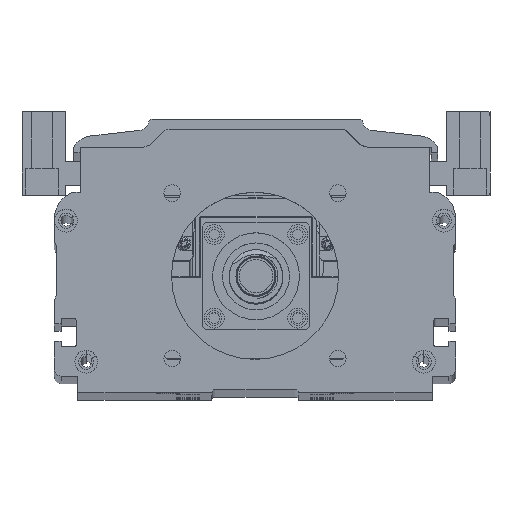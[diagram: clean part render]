
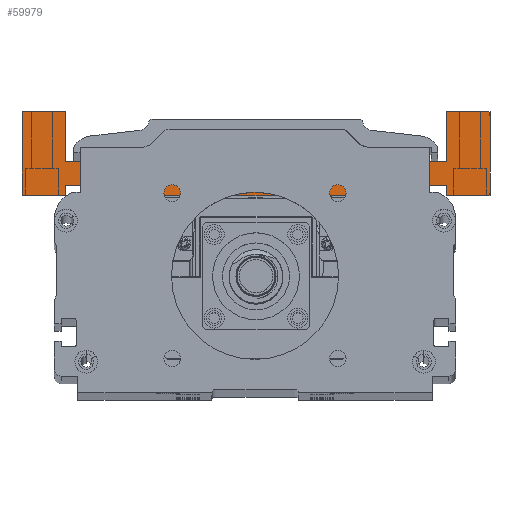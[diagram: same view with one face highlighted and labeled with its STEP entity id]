
A CAD part, top view. The second image highlights one B-rep face of the part: STEP entity #59979.
In plain terms, the highlighted planar face has unit normal (0, 0, 1) as drawn and (0, 0, -1) by its records, which use the part's own axes.
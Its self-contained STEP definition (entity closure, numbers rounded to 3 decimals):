
#3860 = EDGE_CURVE ( 'NONE', #14303, #93980, #13935, .T. ) ;
#4049 = CARTESIAN_POINT ( 'NONE',  ( 127., 0., 0. ) ) ;
#4264 = VECTOR ( 'NONE', #114671, 1000. ) ;
#4629 = EDGE_CURVE ( 'NONE', #39083, #14303, #122139, .T. ) ;
#5108 = VECTOR ( 'NONE', #44307, 1000. ) ;
#5860 = EDGE_CURVE ( 'NONE', #118485, #125857, #63089, .T. ) ;
#6048 = CARTESIAN_POINT ( 'NONE',  ( 140., -25., 0. ) ) ;
#6207 = EDGE_CURVE ( 'NONE', #33908, #99098, #91746, .T. ) ;
#6612 = CARTESIAN_POINT ( 'NONE',  ( 42., -15., 0. ) ) ;
#7567 = VECTOR ( 'NONE', #57195, 1000. ) ;
#7599 = CARTESIAN_POINT ( 'NONE',  ( 13., -15., 0. ) ) ;
#7798 = EDGE_CURVE ( 'NONE', #76989, #122201, #102586, .T. ) ;
#8261 = VECTOR ( 'NONE', #110815, 1000. ) ;
#9100 = VERTEX_POINT ( 'NONE', #15452 ) ;
#9719 = CARTESIAN_POINT ( 'NONE',  ( 19., -22., 0. ) ) ;
#9864 = ORIENTED_EDGE ( 'NONE', *, *, #5860, .F. ) ;
#10648 = ORIENTED_EDGE ( 'NONE', *, *, #3860, .F. ) ;
#11355 = ORIENTED_EDGE ( 'NONE', *, *, #86712, .F. ) ;
#12365 = CARTESIAN_POINT ( 'NONE',  ( 127., -15., 0. ) ) ;
#13204 = LINE ( 'NONE', #4049, #37133 ) ;
#13488 = EDGE_CURVE ( 'NONE', #9100, #81369, #37369, .T. ) ;
#13935 = LINE ( 'NONE', #115567, #17136 ) ;
#14303 = VERTEX_POINT ( 'NONE', #67794 ) ;
#14593 = VECTOR ( 'NONE', #80958, 1000. ) ;
#15452 = CARTESIAN_POINT ( 'NONE',  ( 121., -25., 0. ) ) ;
#16079 = ORIENTED_EDGE ( 'NONE', *, *, #62177, .F. ) ;
#17136 = VECTOR ( 'NONE', #64892, 1000. ) ;
#17893 = CARTESIAN_POINT ( 'NONE',  ( 121., -25., 0. ) ) ;
#19678 = DIRECTION ( 'NONE',  ( 1., 0., 0. ) ) ;
#20122 = CARTESIAN_POINT ( 'NONE',  ( 140., 0., 0. ) ) ;
#20385 = EDGE_CURVE ( 'NONE', #36163, #118485, #110270, .T. ) ;
#21089 = EDGE_CURVE ( 'NONE', #66774, #89603, #22458, .T. ) ;
#22458 = LINE ( 'NONE', #39236, #73485 ) ;
#22709 = CARTESIAN_POINT ( 'NONE',  ( 127., -25., 0. ) ) ;
#25915 = VERTEX_POINT ( 'NONE', #54418 ) ;
#27131 = ORIENTED_EDGE ( 'NONE', *, *, #62912, .F. ) ;
#28090 = DIRECTION ( 'NONE',  ( 0., 1., 0. ) ) ;
#29841 = EDGE_LOOP ( 'NONE', ( #30842, #73053, #93403, #37512, #10648, #127779, #125149, #101247, #98994, #68921, #107499, #27131, #9864, #111480, #11355, #16079 ) ) ;
#30842 = ORIENTED_EDGE ( 'NONE', *, *, #6207, .F. ) ;
#31187 = CARTESIAN_POINT ( 'NONE',  ( 121., -22., 0. ) ) ;
#32589 = DIRECTION ( 'NONE',  ( 0., 0., 1. ) ) ;
#33908 = VERTEX_POINT ( 'NONE', #12365 ) ;
#36163 = VERTEX_POINT ( 'NONE', #113830 ) ;
#36881 = EDGE_CURVE ( 'NONE', #89603, #9100, #82459, .T. ) ;
#37133 = VECTOR ( 'NONE', #126502, 1000. ) ;
#37369 = LINE ( 'NONE', #17893, #58101 ) ;
#37512 = ORIENTED_EDGE ( 'NONE', *, *, #96020, .F. ) ;
#37807 = CARTESIAN_POINT ( 'NONE',  ( 127., -22., 0. ) ) ;
#39083 = VERTEX_POINT ( 'NONE', #37807 ) ;
#39236 = CARTESIAN_POINT ( 'NONE',  ( 19., -25., 0. ) ) ;
#44307 = DIRECTION ( 'NONE',  ( 0., -1., 0. ) ) ;
#53447 = VECTOR ( 'NONE', #109134, 1000. ) ;
#53824 = FACE_OUTER_BOUND ( 'NONE', #29841, .T. ) ;
#54418 = CARTESIAN_POINT ( 'NONE',  ( 13., -22., 0. ) ) ;
#54587 = DIRECTION ( 'NONE',  ( 0., 1., 0. ) ) ;
#55002 = EDGE_CURVE ( 'NONE', #81369, #39083, #92761, .T. ) ;
#55316 = LINE ( 'NONE', #94291, #4264 ) ;
#57195 = DIRECTION ( 'NONE',  ( 1., 0., 0. ) ) ;
#58101 = VECTOR ( 'NONE', #28090, 1000. ) ;
#58191 = AXIS2_PLACEMENT_3D ( 'NONE', #93698, #32589, #103913 ) ;
#59979 = ADVANCED_FACE ( 'NONE', ( #53824 ), #83439, .F. ) ;
#62177 = EDGE_CURVE ( 'NONE', #99098, #97208, #107593, .T. ) ;
#62912 = EDGE_CURVE ( 'NONE', #125857, #25915, #55316, .T. ) ;
#63089 = LINE ( 'NONE', #80735, #87013 ) ;
#64629 = VECTOR ( 'NONE', #128597, 1000. ) ;
#64891 = VECTOR ( 'NONE', #83784, 1000. ) ;
#64892 = DIRECTION ( 'NONE',  ( 1., 0., 0. ) ) ;
#66774 = VERTEX_POINT ( 'NONE', #106617 ) ;
#67794 = CARTESIAN_POINT ( 'NONE',  ( 127., -25., 0. ) ) ;
#68900 = CARTESIAN_POINT ( 'NONE',  ( 19., -25., 0. ) ) ;
#68921 = ORIENTED_EDGE ( 'NONE', *, *, #21089, .F. ) ;
#69150 = CARTESIAN_POINT ( 'NONE',  ( 140., -25., 0. ) ) ;
#73053 = ORIENTED_EDGE ( 'NONE', *, *, #98153, .F. ) ;
#73485 = VECTOR ( 'NONE', #100313, 1000. ) ;
#76989 = VERTEX_POINT ( 'NONE', #20122 ) ;
#77409 = VECTOR ( 'NONE', #54587, 1000. ) ;
#79171 = DIRECTION ( 'NONE',  ( -1., 0., 0. ) ) ;
#79588 = CARTESIAN_POINT ( 'NONE',  ( 13., 0., 0. ) ) ;
#80735 = CARTESIAN_POINT ( 'NONE',  ( 0., -25., 0. ) ) ;
#80958 = DIRECTION ( 'NONE',  ( 1., 0., 0. ) ) ;
#81369 = VERTEX_POINT ( 'NONE', #31187 ) ;
#82459 = LINE ( 'NONE', #118110, #7567 ) ;
#83439 = PLANE ( 'NONE',  #58191 ) ;
#83784 = DIRECTION ( 'NONE',  ( 0., -1., 0. ) ) ;
#85181 = EDGE_CURVE ( 'NONE', #25915, #66774, #92739, .T. ) ;
#86628 = CARTESIAN_POINT ( 'NONE',  ( 13., -25., 0. ) ) ;
#86712 = EDGE_CURVE ( 'NONE', #97208, #36163, #119450, .T. ) ;
#87013 = VECTOR ( 'NONE', #19678, 1000. ) ;
#89603 = VERTEX_POINT ( 'NONE', #68900 ) ;
#91294 = CARTESIAN_POINT ( 'NONE',  ( 0., -25., 0. ) ) ;
#91746 = LINE ( 'NONE', #6612, #64629 ) ;
#92739 = LINE ( 'NONE', #9719, #14593 ) ;
#92761 = LINE ( 'NONE', #100638, #8261 ) ;
#93403 = ORIENTED_EDGE ( 'NONE', *, *, #7798, .F. ) ;
#93698 = CARTESIAN_POINT ( 'NONE',  ( 0., 0., 0. ) ) ;
#93980 = VERTEX_POINT ( 'NONE', #6048 ) ;
#94291 = CARTESIAN_POINT ( 'NONE',  ( 13., -25., 0. ) ) ;
#94408 = CARTESIAN_POINT ( 'NONE',  ( 13., -15., 0. ) ) ;
#96020 = EDGE_CURVE ( 'NONE', #93980, #76989, #125127, .T. ) ;
#97208 = VERTEX_POINT ( 'NONE', #79588 ) ;
#98153 = EDGE_CURVE ( 'NONE', #122201, #33908, #13204, .T. ) ;
#98544 = CARTESIAN_POINT ( 'NONE',  ( 127., 0., 0. ) ) ;
#98994 = ORIENTED_EDGE ( 'NONE', *, *, #36881, .F. ) ;
#99098 = VERTEX_POINT ( 'NONE', #94408 ) ;
#100313 = DIRECTION ( 'NONE',  ( 0., -1., 0. ) ) ;
#100638 = CARTESIAN_POINT ( 'NONE',  ( 121., -22., 0. ) ) ;
#101247 = ORIENTED_EDGE ( 'NONE', *, *, #13488, .F. ) ;
#102586 = LINE ( 'NONE', #128573, #129632 ) ;
#103913 = DIRECTION ( 'NONE',  ( 1., 0., 0. ) ) ;
#106617 = CARTESIAN_POINT ( 'NONE',  ( 19., -22., 0. ) ) ;
#107499 = ORIENTED_EDGE ( 'NONE', *, *, #85181, .F. ) ;
#107593 = LINE ( 'NONE', #7599, #53447 ) ;
#109134 = DIRECTION ( 'NONE',  ( 0., 1., 0. ) ) ;
#110270 = LINE ( 'NONE', #123474, #5108 ) ;
#110815 = DIRECTION ( 'NONE',  ( 1., 0., 0. ) ) ;
#111480 = ORIENTED_EDGE ( 'NONE', *, *, #20385, .F. ) ;
#112986 = DIRECTION ( 'NONE',  ( -1., 0., 0. ) ) ;
#113105 = VECTOR ( 'NONE', #112986, 1000. ) ;
#113830 = CARTESIAN_POINT ( 'NONE',  ( 0., 0., 0. ) ) ;
#114671 = DIRECTION ( 'NONE',  ( 0., 1., 0. ) ) ;
#115567 = CARTESIAN_POINT ( 'NONE',  ( 0., -25., 0. ) ) ;
#118110 = CARTESIAN_POINT ( 'NONE',  ( 0., -25., 0. ) ) ;
#118485 = VERTEX_POINT ( 'NONE', #91294 ) ;
#119450 = LINE ( 'NONE', #122754, #113105 ) ;
#122139 = LINE ( 'NONE', #22709, #64891 ) ;
#122201 = VERTEX_POINT ( 'NONE', #98544 ) ;
#122754 = CARTESIAN_POINT ( 'NONE',  ( 13., 0., 0. ) ) ;
#123474 = CARTESIAN_POINT ( 'NONE',  ( 0., 0., 0. ) ) ;
#125127 = LINE ( 'NONE', #69150, #77409 ) ;
#125149 = ORIENTED_EDGE ( 'NONE', *, *, #55002, .F. ) ;
#125857 = VERTEX_POINT ( 'NONE', #86628 ) ;
#126502 = DIRECTION ( 'NONE',  ( 0., -1., 0. ) ) ;
#127779 = ORIENTED_EDGE ( 'NONE', *, *, #4629, .F. ) ;
#128573 = CARTESIAN_POINT ( 'NONE',  ( 140., 0., 0. ) ) ;
#128597 = DIRECTION ( 'NONE',  ( -1., 0., 0. ) ) ;
#129632 = VECTOR ( 'NONE', #79171, 1000. ) ;
